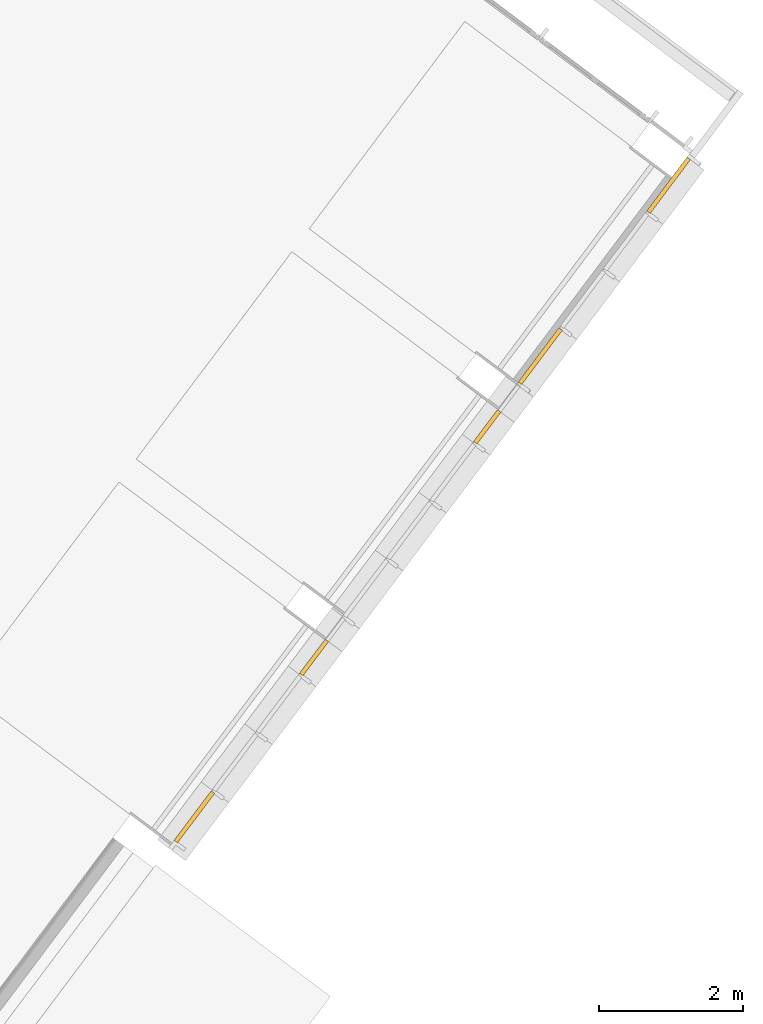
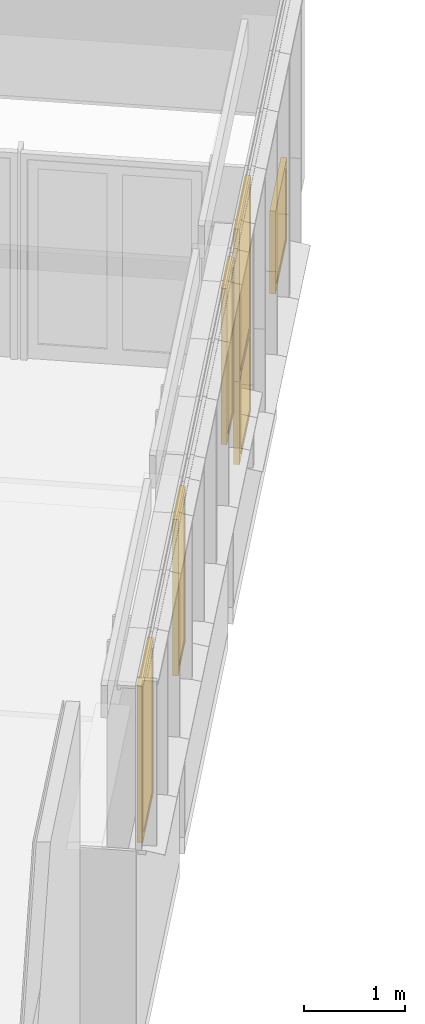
# One storey, part 11 of 15: 6 windows, 2 elements without a shape of their own.
"""IFC2X3 building model written with IfcOpenShell, lengths in metres."""

from ifc_helpers import new_model, entity, si_unit, converted_unit, derived_unit, direction, frame, origin, place, context, subcontext, project, spatial, faceted_brep, source, transform, mapped, material, material_list, type_object, type_shapes, element, aggregate, save


model = new_model("IFC2X3")

# Units and contexts
model_context = context("Model", 3, precision=1e-05, world=origin(), true_north=direction((6.123031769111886e-17, 1.0)))
body_context = subcontext(model_context, "Body", "Model", "MODEL_VIEW")
ifc_project = project(units=[si_unit("LENGTHUNIT", "METRE"), si_unit("AREAUNIT", "SQUARE_METRE"), si_unit("VOLUMEUNIT", "CUBIC_METRE"), converted_unit("PLANEANGLEUNIT", "DEGREE", entity("IfcRatioMeasure", 0.017453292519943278), si_unit("PLANEANGLEUNIT", "RADIAN"), dimensions=[0, 0, 0, 0, 0, 0, 0]), si_unit("MASSUNIT", "GRAM", prefix="KILO"), derived_unit("MASSDENSITYUNIT", [(si_unit("MASSUNIT", "GRAM", prefix="KILO"), 1), (si_unit("LENGTHUNIT", "METRE"), -3)]), derived_unit("IONCONCENTRATIONUNIT", [(si_unit("MASSUNIT", "GRAM", prefix="KILO"), 1), (si_unit("LENGTHUNIT", "METRE"), -3)]), derived_unit("MOMENTOFINERTIAUNIT", [(si_unit("LENGTHUNIT", "METRE"), 4)]), si_unit("TIMEUNIT", "SECOND"), si_unit("FREQUENCYUNIT", "HERTZ"), si_unit("THERMODYNAMICTEMPERATUREUNIT", "DEGREE_CELSIUS"), derived_unit("THERMALTRANSMITTANCEUNIT", [(si_unit("MASSUNIT", "GRAM", prefix="KILO"), 1), (si_unit("THERMODYNAMICTEMPERATUREUNIT", "KELVIN"), -1), (si_unit("TIMEUNIT", "SECOND"), -3)]), derived_unit("THERMALCONDUCTANCEUNIT", [(si_unit("MASSUNIT", "GRAM", prefix="KILO"), 1), (si_unit("THERMODYNAMICTEMPERATUREUNIT", "KELVIN"), -1), (si_unit("TIMEUNIT", "SECOND"), -3), (si_unit("LENGTHUNIT", "METRE"), 1)]), derived_unit("VOLUMETRICFLOWRATEUNIT", [(si_unit("LENGTHUNIT", "METRE"), 3), (si_unit("TIMEUNIT", "SECOND"), -1)]), derived_unit("MASSFLOWRATEUNIT", [(si_unit("MASSUNIT", "GRAM", prefix="KILO"), 1), (si_unit("TIMEUNIT", "SECOND"), -1)]), derived_unit("ROTATIONALFREQUENCYUNIT", [(si_unit("TIMEUNIT", "SECOND"), -1)]), si_unit("ELECTRICCURRENTUNIT", "AMPERE"), si_unit("ELECTRICVOLTAGEUNIT", "VOLT"), si_unit("POWERUNIT", "WATT"), si_unit("FORCEUNIT", "NEWTON", prefix="KILO"), si_unit("ILLUMINANCEUNIT", "LUX"), si_unit("LUMINOUSFLUXUNIT", "LUMEN"), si_unit("LUMINOUSINTENSITYUNIT", "CANDELA"), derived_unit("USERDEFINED", [(si_unit("MASSUNIT", "GRAM", prefix="KILO"), -1), (si_unit("LENGTHUNIT", "METRE"), -2), (si_unit("TIMEUNIT", "SECOND"), 3), (si_unit("LUMINOUSFLUXUNIT", "LUMEN"), 1)]), derived_unit("USERDEFINED", [(si_unit("MASSUNIT", "GRAM", prefix="KILO"), 1), (si_unit("TIMEUNIT", "SECOND"), -3), (si_unit("LENGTHUNIT", "METRE"), 3), (si_unit("ELECTRICCURRENTUNIT", "AMPERE"), -2)]), derived_unit("SOUNDPOWERUNIT", [(si_unit("MASSUNIT", "GRAM", prefix="KILO"), 1), (si_unit("TIMEUNIT", "SECOND"), -3), (si_unit("LENGTHUNIT", "METRE"), 2)]), derived_unit("SOUNDPRESSUREUNIT", [(si_unit("MASSUNIT", "GRAM", prefix="KILO"), 1), (si_unit("LENGTHUNIT", "METRE"), -1), (si_unit("TIMEUNIT", "SECOND"), -2)]), derived_unit("LINEARVELOCITYUNIT", [(si_unit("LENGTHUNIT", "METRE"), 1), (si_unit("TIMEUNIT", "SECOND"), -1)]), si_unit("PRESSUREUNIT", "PASCAL"), derived_unit("USERDEFINED", [(si_unit("MASSUNIT", "GRAM", prefix="KILO"), 1), (si_unit("LENGTHUNIT", "METRE"), -2), (si_unit("TIMEUNIT", "SECOND"), -2)]), derived_unit("LINEARFORCEUNIT", [(si_unit("MASSUNIT", "GRAM", prefix="KILO"), 1), (si_unit("TIMEUNIT", "SECOND"), -2)]), derived_unit("PLANARFORCEUNIT", [(si_unit("MASSUNIT", "GRAM", prefix="KILO"), 1), (si_unit("LENGTHUNIT", "METRE"), -1), (si_unit("TIMEUNIT", "SECOND"), -2)]), derived_unit("SPECIFICHEATCAPACITYUNIT", [(si_unit("THERMODYNAMICTEMPERATUREUNIT", "KELVIN"), -1), (si_unit("LENGTHUNIT", "METRE"), 2), (si_unit("TIMEUNIT", "SECOND"), -2)]), derived_unit("HEATINGVALUEUNIT", [(si_unit("LENGTHUNIT", "METRE"), 2), (si_unit("TIMEUNIT", "SECOND"), -2)]), derived_unit("VAPORPERMEABILITYUNIT", [(si_unit("LENGTHUNIT", "METRE"), -1), (si_unit("TIMEUNIT", "SECOND"), 1)]), derived_unit("DYNAMICVISCOSITYUNIT", [(si_unit("MASSUNIT", "GRAM", prefix="KILO"), 1), (si_unit("TIMEUNIT", "SECOND"), -1), (si_unit("LENGTHUNIT", "METRE"), -1)]), derived_unit("THERMALEXPANSIONCOEFFICIENTUNIT", [(si_unit("THERMODYNAMICTEMPERATUREUNIT", "KELVIN"), -1)]), derived_unit("MODULUSOFELASTICITYUNIT", [(si_unit("MASSUNIT", "GRAM", prefix="KILO"), 1), (si_unit("LENGTHUNIT", "METRE"), -1), (si_unit("TIMEUNIT", "SECOND"), -2)]), derived_unit("ISOTHERMALMOISTURECAPACITYUNIT", [(si_unit("LENGTHUNIT", "METRE"), 3), (si_unit("MASSUNIT", "GRAM", prefix="KILO"), -1)]), derived_unit("MOISTUREDIFFUSIVITYUNIT", [(si_unit("TIMEUNIT", "SECOND"), -1), (si_unit("LENGTHUNIT", "METRE"), 2)])], contexts=[model_context])

# Site, building, storey
site_placement = place(None, frame((0.0, 0.0, 235.0), z_axis=(0.0, 0.0, 1.0), x_axis=(-0.7996477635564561, 0.6004693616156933, 0.0)))
site = spatial("IfcSite", under=ifc_project, at=site_placement, Name="Default", CompositionType="ELEMENT")
building_placement = place(site_placement, origin())
building = spatial("IfcBuilding", under=site, at=building_placement, CompositionType="ELEMENT")
storey_placement = place(building_placement, frame((0.0, 0.0, -5.4499999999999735)))
storey = spatial("IfcBuildingStorey", under=building, at=storey_placement, Name="PS1- Gimnàs", CompositionType="ELEMENT", Elevation=-5.4499999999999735)

# Curtain wall, windows
curtain_wall_type = type_object("IfcCurtainWallType", Name="Muro cortina:MC- EXT- MCv1- lateral", PredefinedType="NOTDEFINED")
curtain_wall_1_placement = place(storey_placement, frame((0.0, 0.0, 5.4499999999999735)))
curtain_wall_1 = element("IfcCurtainWall", 1, at=curtain_wall_1_placement, inside=storey, type_object=curtain_wall_type, Name="Muro cortina:MC- EXT- MCv1- lateral", ObjectType="Muro cortina:MC- EXT- MCv1- lateral")
ifc_material_1 = material(Name="_Vidre")
ifc_material_2 = material(Name="_Alumini- T1- Perfil")
ifc_material_list = material_list([ifc_material_1, ifc_material_2])
window_style_1 = type_object("IfcWindowStyle", Name="MC- Alu- Conjunt vidre fix- 62x60 cm:MC- Alu- Conjunt vidre fix- 62x60 cm", ConstructionType="NOTDEFINED", OperationType="NOTDEFINED", ParameterTakesPrecedence=False, Sizeable=False, material=ifc_material_list)
shared_shape_1 = source(origin(), body_context, "Body", "Brep", [
    faceted_brep([(-0.22683093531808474, -0.007600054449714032, 0.048806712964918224), (0.2268309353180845, -0.007600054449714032, 0.048806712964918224), (0.2268309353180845, -0.03160022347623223, 0.048806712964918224), (-0.22683093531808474, -0.03160022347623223, 0.048806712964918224), (-0.22683093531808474, -0.007600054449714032, 1.8424999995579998), (0.2268309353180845, -0.007600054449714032, 1.8424999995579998), (0.2268309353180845, -0.03160022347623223, 1.8424999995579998), (-0.22683093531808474, -0.03160022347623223, 1.8424999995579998)], [[[0, 1, 2, 3]], [[4, 5, 1, 0]], [[5, 6, 2, 1]], [[6, 7, 3, 2]], [[7, 4, 0, 3]], [[4, 7, 6, 5]]]),
    faceted_brep([(-0.2756376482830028, -0.05999999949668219, 1.8914999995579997), (-0.2756376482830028, 0.0, 1.8914999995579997), (-0.2756376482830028, 0.0, 0.0), (-0.2756376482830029, -0.05999999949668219, 0.0), (-0.21283083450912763, 0.0, 1.8286931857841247), (-0.2128308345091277, 0.0, 0.06280681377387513), (0.2128308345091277, 0.0, 0.06280681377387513), (0.21283083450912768, 0.0, 1.8286931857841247), (0.27563764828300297, 0.0, 1.8914999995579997), (0.2756376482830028, 0.0, 0.0), (0.27563764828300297, -0.05999999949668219, 0.0), (0.2756376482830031, -0.05999999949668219, 1.8914999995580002), (0.21283368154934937, -0.05999999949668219, 1.8286960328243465), (0.21283368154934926, -0.05999999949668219, 0.06280396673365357), (-0.21283368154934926, -0.05999999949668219, 0.06280396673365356), (-0.21283368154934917, -0.05999999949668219, 1.8286960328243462), (-0.2128336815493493, -0.03160022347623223, 1.8286960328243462), (-0.21283368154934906, -0.03160022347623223, 0.06280396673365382), (0.21283368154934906, -0.03160022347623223, 0.06280396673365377), (0.21283368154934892, -0.03160022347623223, 1.828696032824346), (0.2268309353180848, -0.03160022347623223, 1.8426932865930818), (0.22683093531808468, -0.03160022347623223, 0.048806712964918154), (-0.22683093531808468, -0.03160022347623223, 0.04880671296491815), (-0.22683093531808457, -0.03160022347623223, 1.8426932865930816), (-0.2268309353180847, -0.007600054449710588, 1.8426932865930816), (-0.22683093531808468, -0.007600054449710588, 0.04880671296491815), (0.22683093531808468, -0.007600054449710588, 0.048806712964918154), (0.22683093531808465, -0.007600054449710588, 1.8426932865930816), (0.2128308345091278, -0.007600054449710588, 1.8286931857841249), (0.2128308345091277, -0.007600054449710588, 0.06280681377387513), (-0.21283083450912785, -0.007600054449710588, 0.06280681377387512), (-0.2128308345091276, -0.007600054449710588, 1.8286931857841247)], [[[0, 1, 2, 3]], [[4, 5, 6, 7], [8, 9, 2, 1]], [[3, 2, 9, 10]], [[0, 3, 10, 11], [12, 13, 14, 15]], [[16, 15, 14, 17]], [[17, 14, 13, 18]], [[16, 17, 18, 19], [20, 21, 22, 23]], [[24, 23, 22, 25]], [[25, 22, 21, 26]], [[24, 25, 26, 27], [28, 29, 30, 31]], [[4, 31, 30, 5]], [[5, 30, 29, 6]], [[10, 9, 8, 11]], [[18, 13, 12, 19]], [[26, 21, 20, 27]], [[6, 29, 28, 7]], [[11, 8, 1, 0]], [[19, 12, 15, 16]], [[27, 20, 23, 24]], [[7, 28, 31, 4]]], outer=[[True], [False, True], [True], [True, False], [True], [True], [False, True], [True], [True], [True, False], [True], [True], [True], [True], [True], [True], [True], [True], [True], [True]]),
])
type_shapes(window_style_1, [shared_shape_1])
window_1_placement = place(curtain_wall_1_placement, frame((3.0851476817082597, -33.67455411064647, -2.783999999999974), z_axis=(0.0, 0.0, 1.0), x_axis=(0.0, 1.0, 0.0)))
window_1 = element("IfcWindow", 2, at=window_1_placement, type_object=window_style_1, material=ifc_material_list, Name="MC- Alu- Conjunt vidre fix- 62x60 cm:MC- Alu- Conjunt vidre fix- 62x60 cm", ObjectType="MC- Alu- Conjunt vidre fix- 62x60 cm:MC- Alu- Conjunt vidre fix- 62x60 cm", OverallHeight=1.8914999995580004, OverallWidth=0.5512752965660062, context=body_context, shape_type="MappedRepresentation", body=[
    mapped(shared_shape_1, transform((0.0, 0.0, 0.0), scale=1.0)),
])
window_style_2 = type_object("IfcWindowStyle", Name="MC- Alu- Conjunt vidre fix- 62x60 cm:MC- Alu- Conjunt vidre fix- 62x60 cm", ConstructionType="NOTDEFINED", OperationType="NOTDEFINED", ParameterTakesPrecedence=False, Sizeable=False, material=ifc_material_list)
shared_shape_2 = source(origin(), body_context, "Body", "Brep", [
    faceted_brep([(-0.24683093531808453, -0.007600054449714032, 0.048806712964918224), (0.24683093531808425, -0.007600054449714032, 0.048806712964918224), (0.24683093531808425, -0.03160022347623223, 0.048806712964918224), (-0.24683093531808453, -0.03160022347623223, 0.048806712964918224), (-0.24683093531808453, -0.007600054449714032, 1.8424999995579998), (0.24683093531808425, -0.007600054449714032, 1.8424999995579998), (0.24683093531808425, -0.03160022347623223, 1.8424999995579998), (-0.24683093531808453, -0.03160022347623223, 1.8424999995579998)], [[[0, 1, 2, 3]], [[4, 5, 1, 0]], [[5, 6, 2, 1]], [[6, 7, 3, 2]], [[7, 4, 0, 3]], [[4, 7, 6, 5]]]),
    faceted_brep([(-0.2956376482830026, -0.05999999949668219, 1.8914999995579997), (-0.2956376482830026, 0.0, 1.8914999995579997), (-0.2956376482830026, 0.0, 0.0), (-0.29563764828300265, -0.05999999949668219, 0.0), (-0.23283083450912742, 0.0, 1.8286931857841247), (-0.23283083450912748, 0.0, 0.06280681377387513), (0.23283083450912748, 0.0, 0.06280681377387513), (0.23283083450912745, 0.0, 1.8286931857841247), (0.29563764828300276, 0.0, 1.8914999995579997), (0.2956376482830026, 0.0, 0.0), (0.29563764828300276, -0.05999999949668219, 0.0), (0.2956376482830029, -0.05999999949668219, 1.8914999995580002), (0.23283368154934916, -0.05999999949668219, 1.8286960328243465), (0.23283368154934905, -0.05999999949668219, 0.06280396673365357), (-0.23283368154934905, -0.05999999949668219, 0.06280396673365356), (-0.23283368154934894, -0.05999999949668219, 1.8286960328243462), (-0.23283368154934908, -0.03160022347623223, 1.8286960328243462), (-0.23283368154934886, -0.03160022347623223, 0.06280396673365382), (0.23283368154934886, -0.03160022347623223, 0.06280396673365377), (0.23283368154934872, -0.03160022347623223, 1.828696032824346), (0.24683093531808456, -0.03160022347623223, 1.8426932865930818), (0.24683093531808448, -0.03160022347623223, 0.048806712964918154), (-0.24683093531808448, -0.03160022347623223, 0.04880671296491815), (-0.24683093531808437, -0.03160022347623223, 1.8426932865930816), (-0.2468309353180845, -0.007600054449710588, 1.8426932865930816), (-0.24683093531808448, -0.007600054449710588, 0.04880671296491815), (0.24683093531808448, -0.007600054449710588, 0.048806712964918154), (0.24683093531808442, -0.007600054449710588, 1.8426932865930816), (0.2328308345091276, -0.007600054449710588, 1.8286931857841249), (0.23283083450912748, -0.007600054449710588, 0.06280681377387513), (-0.23283083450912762, -0.007600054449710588, 0.06280681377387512), (-0.2328308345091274, -0.007600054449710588, 1.8286931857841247)], [[[0, 1, 2, 3]], [[4, 5, 6, 7], [8, 9, 2, 1]], [[3, 2, 9, 10]], [[0, 3, 10, 11], [12, 13, 14, 15]], [[16, 15, 14, 17]], [[17, 14, 13, 18]], [[16, 17, 18, 19], [20, 21, 22, 23]], [[24, 23, 22, 25]], [[25, 22, 21, 26]], [[24, 25, 26, 27], [28, 29, 30, 31]], [[4, 31, 30, 5]], [[5, 30, 29, 6]], [[10, 9, 8, 11]], [[18, 13, 12, 19]], [[26, 21, 20, 27]], [[6, 29, 28, 7]], [[11, 8, 1, 0]], [[19, 12, 15, 16]], [[27, 20, 23, 24]], [[7, 28, 31, 4]]], outer=[[True], [False, True], [True], [True, False], [True], [True], [False, True], [True], [True], [True, False], [True], [True], [True], [True], [True], [True], [True], [True], [True], [True]]),
])
type_shapes(window_style_2, [shared_shape_2])
window_2_placement = place(curtain_wall_1_placement, frame((3.0851476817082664, -29.669452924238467, -2.783999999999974), z_axis=(0.0, 0.0, 1.0), x_axis=(0.0, 1.0, 0.0)))
window_2 = element("IfcWindow", 3, at=window_2_placement, type_object=window_style_2, material=ifc_material_list, Name="MC- Alu- Conjunt vidre fix- 62x60 cm:MC- Alu- Conjunt vidre fix- 62x60 cm", ObjectType="MC- Alu- Conjunt vidre fix- 62x60 cm:MC- Alu- Conjunt vidre fix- 62x60 cm", OverallHeight=1.8914999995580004, OverallWidth=0.5912752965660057, context=body_context, shape_type="MappedRepresentation", body=[
    mapped(shared_shape_2, transform((0.0, 0.0, 0.0), scale=1.0)),
])
window_style_3 = type_object("IfcWindowStyle", Name="MC- Alu- Conjunt vidre fix- 62x60 cm:MC- Alu- Conjunt vidre fix- 62x60 cm", ConstructionType="NOTDEFINED", OperationType="NOTDEFINED", ParameterTakesPrecedence=False, Sizeable=False, material=ifc_material_list)
shared_shape_3 = source(origin(), body_context, "Body", "Brep", [
    faceted_brep([(-0.3812059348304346, -0.007600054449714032, 0.048806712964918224), (0.3812059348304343, -0.007600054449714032, 0.048806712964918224), (0.3812059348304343, -0.03160022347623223, 0.048806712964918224), (-0.3812059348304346, -0.03160022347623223, 0.048806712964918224), (-0.3812059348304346, -0.007600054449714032, 1.8424999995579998), (0.3812059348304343, -0.007600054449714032, 1.8424999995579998), (0.3812059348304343, -0.03160022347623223, 1.8424999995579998), (-0.3812059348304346, -0.03160022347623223, 1.8424999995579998)], [[[0, 1, 2, 3]], [[4, 5, 1, 0]], [[5, 6, 2, 1]], [[6, 7, 3, 2]], [[7, 4, 0, 3]], [[4, 7, 6, 5]]]),
    faceted_brep([(-0.43001264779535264, -0.05999999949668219, 1.8914999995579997), (-0.43001264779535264, 0.0, 1.8914999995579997), (-0.43001264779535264, 0.0, 0.0), (-0.4300126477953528, -0.05999999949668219, 0.0), (-0.3672058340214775, 0.0, 1.8286931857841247), (-0.3672058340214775, 0.0, 0.06280681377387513), (0.36720583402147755, 0.0, 0.06280681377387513), (0.3672058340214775, 0.0, 1.8286931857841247), (0.4300126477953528, 0.0, 1.8914999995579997), (0.43001264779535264, 0.0, 0.0), (0.4300126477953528, -0.05999999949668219, 0.0), (0.4300126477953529, -0.05999999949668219, 1.8914999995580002), (0.36720868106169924, -0.05999999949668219, 1.8286960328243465), (0.3672086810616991, -0.05999999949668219, 0.06280396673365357), (-0.3672086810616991, -0.05999999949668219, 0.06280396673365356), (-0.3672086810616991, -0.05999999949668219, 1.8286960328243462), (-0.3672086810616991, -0.03160022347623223, 1.8286960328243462), (-0.3672086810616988, -0.03160022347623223, 0.06280396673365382), (0.3672086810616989, -0.03160022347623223, 0.06280396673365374), (0.3672086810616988, -0.03160022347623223, 1.828696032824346), (0.38120593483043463, -0.03160022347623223, 1.8426932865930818), (0.3812059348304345, -0.03160022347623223, 0.048806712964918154), (-0.3812059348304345, -0.03160022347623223, 0.04880671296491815), (-0.3812059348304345, -0.03160022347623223, 1.8426932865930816), (-0.3812059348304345, -0.007600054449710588, 1.8426932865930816), (-0.3812059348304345, -0.007600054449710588, 0.04880671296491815), (0.3812059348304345, -0.007600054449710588, 0.048806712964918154), (0.3812059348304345, -0.007600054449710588, 1.8426932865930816), (0.36720583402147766, -0.007600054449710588, 1.8286931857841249), (0.36720583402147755, -0.007600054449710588, 0.06280681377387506), (-0.36720583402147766, -0.007600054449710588, 0.06280681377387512), (-0.36720583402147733, -0.007600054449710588, 1.8286931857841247)], [[[0, 1, 2, 3]], [[4, 5, 6, 7], [8, 9, 2, 1]], [[3, 2, 9, 10]], [[0, 3, 10, 11], [12, 13, 14, 15]], [[16, 15, 14, 17]], [[17, 14, 13, 18]], [[16, 17, 18, 19], [20, 21, 22, 23]], [[24, 23, 22, 25]], [[25, 22, 21, 26]], [[24, 25, 26, 27], [28, 29, 30, 31]], [[4, 31, 30, 5]], [[5, 30, 29, 6]], [[10, 9, 8, 11]], [[18, 13, 12, 19]], [[26, 21, 20, 27]], [[6, 29, 28, 7]], [[11, 8, 1, 0]], [[19, 12, 15, 16]], [[27, 20, 23, 24]], [[7, 28, 31, 4]]], outer=[[True], [False, True], [True], [True, False], [True], [True], [False, True], [True], [True], [True, False], [True], [True], [True], [True], [True], [True], [True], [True], [True], [True]]),
])
type_shapes(window_style_3, [shared_shape_3])
window_3_placement = place(curtain_wall_1_placement, frame((3.0851476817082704, -26.901252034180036, -2.783999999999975), z_axis=(0.0, 0.0, 1.0), x_axis=(0.0, 1.0, 0.0)))
window_3 = element("IfcWindow", 4, at=window_3_placement, type_object=window_style_3, material=ifc_material_list, Name="MC- Alu- Conjunt vidre fix- 62x60 cm:MC- Alu- Conjunt vidre fix- 62x60 cm", ObjectType="MC- Alu- Conjunt vidre fix- 62x60 cm:MC- Alu- Conjunt vidre fix- 62x60 cm", OverallHeight=1.8914999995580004, OverallWidth=0.860025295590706, context=body_context, shape_type="MappedRepresentation", body=[
    mapped(shared_shape_3, transform((0.0, 0.0, 0.0), scale=1.0)),
])
aggregate(curtain_wall_1, [window_1, window_2, window_3])

curtain_wall_2_placement = place(storey_placement, frame((0.0, 0.0, 5.4499999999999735)))
curtain_wall_2 = element("IfcCurtainWall", 5, at=curtain_wall_2_placement, inside=storey, type_object=curtain_wall_type, Name="Muro cortina:MC- EXT- MCv1- lateral", ObjectType="Muro cortina:MC- EXT- MCv1- lateral")
window_style_4 = type_object("IfcWindowStyle", Name="MC- Alu- Conjunt vidre fix- 62x60 cm:MC- Alu- Conjunt vidre fix- 62x60 cm", ConstructionType="NOTDEFINED", OperationType="NOTDEFINED", ParameterTakesPrecedence=False, Sizeable=False, material=ifc_material_list)
shared_shape_4 = source(origin(), body_context, "Body", "Brep", [
    faceted_brep([(-0.41720266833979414, -0.007600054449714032, 0.048806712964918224), (0.41720266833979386, -0.007600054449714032, 0.048806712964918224), (0.41720266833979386, -0.03160022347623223, 0.048806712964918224), (-0.41720266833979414, -0.03160022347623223, 0.048806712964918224), (-0.41720266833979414, -0.007600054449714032, 0.9550000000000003), (0.41720266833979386, -0.007600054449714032, 0.9550000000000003), (0.41720266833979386, -0.03160022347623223, 0.9550000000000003), (-0.41720266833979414, -0.03160022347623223, 0.9550000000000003)], [[[0, 1, 2, 3]], [[4, 5, 1, 0]], [[5, 6, 2, 1]], [[6, 7, 3, 2]], [[7, 4, 0, 3]], [[4, 7, 6, 5]]]),
    faceted_brep([(-0.46600938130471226, -0.05999999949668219, 1.0040000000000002), (-0.46600938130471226, 0.0, 1.0040000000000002), (-0.46600938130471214, 0.0, 0.0), (-0.46600938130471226, -0.05999999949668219, 0.0), (-0.40320256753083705, 0.0, 0.9411931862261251), (-0.40320256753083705, 0.0, 0.06280681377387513), (0.4032025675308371, 0.0, 0.06280681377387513), (0.4032025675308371, 0.0, 0.9411931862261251), (0.46600938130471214, 0.0, 1.0040000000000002), (0.46600938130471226, 0.0, 0.0), (0.46600938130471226, -0.05999999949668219, 0.0), (0.46600938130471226, -0.05999999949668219, 1.0040000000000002), (0.40320541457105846, -0.05999999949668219, 0.9411960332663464), (0.4032054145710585, -0.05999999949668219, 0.0628039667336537), (-0.40320541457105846, -0.05999999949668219, 0.06280396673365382), (-0.4032054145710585, -0.05999999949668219, 0.9411960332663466), (-0.4032054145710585, -0.03160022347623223, 0.9411960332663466), (-0.40320541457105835, -0.03160022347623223, 0.06280396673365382), (0.40320541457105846, -0.03160022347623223, 0.06280396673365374), (0.4032054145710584, -0.03160022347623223, 0.9411960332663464), (0.4172026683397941, -0.03160022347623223, 0.9551932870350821), (0.4172026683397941, -0.03160022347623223, 0.048806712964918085), (-0.4172026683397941, -0.03160022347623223, 0.04880671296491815), (-0.4172026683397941, -0.03160022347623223, 0.9551932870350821), (-0.4172026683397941, -0.007600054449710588, 0.9551932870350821), (-0.4172026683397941, -0.007600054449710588, 0.04880671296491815), (0.4172026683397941, -0.007600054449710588, 0.048806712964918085), (0.4172026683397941, -0.007600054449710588, 0.9551932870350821), (0.40320256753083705, -0.007600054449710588, 0.941193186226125), (0.4032025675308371, -0.007600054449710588, 0.06280681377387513), (-0.40320256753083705, -0.007600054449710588, 0.06280681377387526), (-0.4032025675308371, -0.007600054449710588, 0.9411931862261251)], [[[0, 1, 2, 3]], [[4, 5, 6, 7], [8, 9, 2, 1]], [[3, 2, 9, 10]], [[0, 3, 10, 11], [12, 13, 14, 15]], [[16, 15, 14, 17]], [[17, 14, 13, 18]], [[16, 17, 18, 19], [20, 21, 22, 23]], [[24, 23, 22, 25]], [[25, 22, 21, 26]], [[24, 25, 26, 27], [28, 29, 30, 31]], [[4, 31, 30, 5]], [[5, 30, 29, 6]], [[10, 9, 8, 11]], [[18, 13, 12, 19]], [[26, 21, 20, 27]], [[6, 29, 28, 7]], [[11, 8, 1, 0]], [[19, 12, 15, 16]], [[27, 20, 23, 24]], [[7, 28, 31, 4]]], outer=[[True], [False, True], [True], [True, False], [True], [True], [False, True], [True], [True], [True, False], [True], [True], [True], [True], [True], [True], [True], [True], [True], [True]]),
])
type_shapes(window_style_4, [shared_shape_4])
window_4_placement = place(curtain_wall_2_placement, frame((3.085147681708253, -37.870238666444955, -3.7439999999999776), z_axis=(0.0, 0.0, 1.0), x_axis=(0.0, 1.0, 0.0)))
window_4 = element("IfcWindow", 6, at=window_4_placement, type_object=window_style_4, material=ifc_material_list, Name="MC- Alu- Conjunt vidre fix- 62x60 cm:MC- Alu- Conjunt vidre fix- 62x60 cm", ObjectType="MC- Alu- Conjunt vidre fix- 62x60 cm:MC- Alu- Conjunt vidre fix- 62x60 cm", OverallHeight=1.0040000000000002, OverallWidth=0.9320187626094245, context=body_context, shape_type="MappedRepresentation", body=[
    mapped(shared_shape_4, transform((0.0, 0.0, 0.0), scale=1.0)),
])
window_style_5 = type_object("IfcWindowStyle", Name="MC- Alu- Conjunt vidre fix- 62x60 cm:MC- Alu- Conjunt vidre fix- 62x60 cm", ConstructionType="NOTDEFINED", OperationType="NOTDEFINED", ParameterTakesPrecedence=False, Sizeable=False, material=ifc_material_list)
shared_shape_5 = source(origin(), body_context, "Body", "Brep", [
    faceted_brep([(-0.4230682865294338, -0.007600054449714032, 0.048806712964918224), (0.4230682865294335, -0.007600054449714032, 0.048806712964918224), (0.4230682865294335, -0.03160022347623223, 0.048806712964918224), (-0.4230682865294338, -0.03160022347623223, 0.048806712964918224), (-0.4230682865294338, -0.007600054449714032, 0.9550000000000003), (0.4230682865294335, -0.007600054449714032, 0.9550000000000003), (0.4230682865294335, -0.03160022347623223, 0.9550000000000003), (-0.4230682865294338, -0.03160022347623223, 0.9550000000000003)], [[[0, 1, 2, 3]], [[4, 5, 1, 0]], [[5, 6, 2, 1]], [[6, 7, 3, 2]], [[7, 4, 0, 3]], [[4, 7, 6, 5]]]),
    faceted_brep([(-0.47187499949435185, -0.05999999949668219, 1.0040000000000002), (-0.47187499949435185, 0.0, 1.0040000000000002), (-0.4718749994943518, 0.0, 0.0), (-0.47187499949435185, -0.05999999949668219, 0.0), (-0.4090681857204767, 0.0, 0.9411931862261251), (-0.4090681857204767, 0.0, 0.06280681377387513), (0.40906818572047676, 0.0, 0.06280681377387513), (0.40906818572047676, 0.0, 0.9411931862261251), (0.4718749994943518, 0.0, 1.0040000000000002), (0.47187499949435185, 0.0, 0.0), (0.47187499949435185, -0.05999999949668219, 0.0), (0.47187499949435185, -0.05999999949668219, 1.0040000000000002), (0.4090710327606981, -0.05999999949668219, 0.9411960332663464), (0.40907103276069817, -0.05999999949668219, 0.0628039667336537), (-0.4090710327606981, -0.05999999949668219, 0.06280396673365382), (-0.40907103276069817, -0.05999999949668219, 0.9411960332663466), (-0.40907103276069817, -0.03160022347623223, 0.9411960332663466), (-0.409071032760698, -0.03160022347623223, 0.06280396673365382), (0.4090710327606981, -0.03160022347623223, 0.06280396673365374), (0.40907103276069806, -0.03160022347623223, 0.9411960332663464), (0.42306828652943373, -0.03160022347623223, 0.9551932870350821), (0.42306828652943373, -0.03160022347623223, 0.048806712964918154), (-0.42306828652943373, -0.03160022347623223, 0.04880671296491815), (-0.42306828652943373, -0.03160022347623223, 0.9551932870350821), (-0.42306828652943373, -0.007600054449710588, 0.9551932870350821), (-0.42306828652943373, -0.007600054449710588, 0.04880671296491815), (0.42306828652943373, -0.007600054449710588, 0.048806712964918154), (0.42306828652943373, -0.007600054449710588, 0.9551932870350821), (0.4090681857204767, -0.007600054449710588, 0.941193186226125), (0.40906818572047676, -0.007600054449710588, 0.0628068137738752), (-0.4090681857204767, -0.007600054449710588, 0.06280681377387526), (-0.40906818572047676, -0.007600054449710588, 0.941193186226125)], [[[0, 1, 2, 3]], [[4, 5, 6, 7], [8, 9, 2, 1]], [[3, 2, 9, 10]], [[0, 3, 10, 11], [12, 13, 14, 15]], [[16, 15, 14, 17]], [[17, 14, 13, 18]], [[16, 17, 18, 19], [20, 21, 22, 23]], [[24, 23, 22, 25]], [[25, 22, 21, 26]], [[24, 25, 26, 27], [28, 29, 30, 31]], [[4, 31, 30, 5]], [[5, 30, 29, 6]], [[10, 9, 8, 11]], [[18, 13, 12, 19]], [[26, 21, 20, 27]], [[6, 29, 28, 7]], [[11, 8, 1, 0]], [[19, 12, 15, 16]], [[27, 20, 23, 24]], [[7, 28, 31, 4]]], outer=[[True], [False, True], [True], [True, False], [True], [True], [False, True], [True], [True], [True, False], [True], [True], [True], [True], [True], [True], [True], [True], [True], [True]]),
])
type_shapes(window_style_5, [shared_shape_5])
window_5_placement = place(curtain_wall_2_placement, frame((3.085147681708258, -34.90331675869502, -3.7439999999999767), z_axis=(0.0, 0.0, 1.0), x_axis=(0.0, 1.0, 0.0)))
window_5 = element("IfcWindow", 7, at=window_5_placement, type_object=window_style_5, material=ifc_material_list, Name="MC- Alu- Conjunt vidre fix- 62x60 cm:MC- Alu- Conjunt vidre fix- 62x60 cm", ObjectType="MC- Alu- Conjunt vidre fix- 62x60 cm:MC- Alu- Conjunt vidre fix- 62x60 cm", OverallHeight=1.0040000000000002, OverallWidth=0.9437499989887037, context=body_context, shape_type="MappedRepresentation", body=[
    mapped(shared_shape_5, transform((0.0, 0.0, 0.0), scale=1.0)),
])
window_style_6 = type_object("IfcWindowStyle", Name="MC- Alu- Conjunt vidre fix- 62x60 cm:MC- Alu- Conjunt vidre fix- 62x60 cm", ConstructionType="NOTDEFINED", OperationType="NOTDEFINED", ParameterTakesPrecedence=False, Sizeable=False, material=ifc_material_list)
shared_shape_6 = source(origin(), body_context, "Body", "Brep", [
    faceted_brep([(-0.4230682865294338, -0.007600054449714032, 0.048806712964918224), (0.4230682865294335, -0.007600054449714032, 0.048806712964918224), (0.4230682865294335, -0.03160022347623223, 0.048806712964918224), (-0.4230682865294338, -0.03160022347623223, 0.048806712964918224), (-0.4230682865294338, -0.007600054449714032, 1.798499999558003), (0.4230682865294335, -0.007600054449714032, 1.798499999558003), (0.4230682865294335, -0.03160022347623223, 1.798499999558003), (-0.4230682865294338, -0.03160022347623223, 1.798499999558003)], [[[0, 1, 2, 3]], [[4, 5, 1, 0]], [[5, 6, 2, 1]], [[6, 7, 3, 2]], [[7, 4, 0, 3]], [[4, 7, 6, 5]]]),
    faceted_brep([(-0.47187499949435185, -0.05999999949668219, 1.847499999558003), (-0.47187499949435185, 0.0, 1.847499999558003), (-0.47187499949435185, 0.0, 0.0), (-0.47187499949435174, -0.05999999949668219, 0.0), (-0.4090681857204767, 0.0, 1.784693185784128), (-0.4090681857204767, 0.0, 0.06280681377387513), (0.40906818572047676, 0.0, 0.06280681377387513), (0.4090681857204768, 0.0, 1.784693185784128), (0.47187499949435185, 0.0, 1.847499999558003), (0.47187499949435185, 0.0, 0.0), (0.47187499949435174, -0.05999999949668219, 0.0), (0.47187499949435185, -0.05999999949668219, 1.847499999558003), (0.4090710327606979, -0.05999999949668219, 1.7846960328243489), (0.40907103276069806, -0.05999999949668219, 0.0628039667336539), (-0.40907103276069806, -0.05999999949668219, 0.06280396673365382), (-0.40907103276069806, -0.05999999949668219, 1.7846960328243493), (-0.40907103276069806, -0.03160022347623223, 1.7846960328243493), (-0.409071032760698, -0.03160022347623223, 0.06280396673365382), (0.4090710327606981, -0.03160022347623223, 0.06280396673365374), (0.40907103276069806, -0.03160022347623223, 1.7846960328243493), (0.42306828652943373, -0.03160022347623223, 1.798693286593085), (0.42306828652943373, -0.03160022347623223, 0.048806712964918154), (-0.42306828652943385, -0.03160022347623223, 0.04880671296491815), (-0.42306828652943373, -0.03160022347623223, 1.798693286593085), (-0.42306828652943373, -0.007600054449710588, 1.798693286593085), (-0.42306828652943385, -0.007600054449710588, 0.04880671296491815), (0.42306828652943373, -0.007600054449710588, 0.048806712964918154), (0.42306828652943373, -0.007600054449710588, 1.798693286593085), (0.40906818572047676, -0.007600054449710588, 1.784693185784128), (0.40906818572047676, -0.007600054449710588, 0.0628068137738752), (-0.4090681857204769, -0.007600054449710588, 0.06280681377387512), (-0.4090681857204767, -0.007600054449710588, 1.784693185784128)], [[[0, 1, 2, 3]], [[4, 5, 6, 7], [8, 9, 2, 1]], [[3, 2, 9, 10]], [[0, 3, 10, 11], [12, 13, 14, 15]], [[16, 15, 14, 17]], [[17, 14, 13, 18]], [[16, 17, 18, 19], [20, 21, 22, 23]], [[24, 23, 22, 25]], [[25, 22, 21, 26]], [[24, 25, 26, 27], [28, 29, 30, 31]], [[4, 31, 30, 5]], [[5, 30, 29, 6]], [[10, 9, 8, 11]], [[18, 13, 12, 19]], [[26, 21, 20, 27]], [[6, 29, 28, 7]], [[11, 8, 1, 0]], [[19, 12, 15, 16]], [[27, 20, 23, 24]], [[7, 28, 31, 4]]], outer=[[True], [False, True], [True], [True, False], [True], [True], [False, True], [True], [True], [True, False], [True], [True], [True], [True], [True], [True], [True], [True], [True], [True]]),
])
type_shapes(window_style_6, [shared_shape_6])
window_6_placement = place(curtain_wall_2_placement, frame((3.085147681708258, -34.90331675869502, -2.7399999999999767), z_axis=(0.0, 0.0, 1.0), x_axis=(0.0, 1.0, 0.0)))
window_6 = element("IfcWindow", 8, at=window_6_placement, type_object=window_style_6, material=ifc_material_list, Name="MC- Alu- Conjunt vidre fix- 62x60 cm:MC- Alu- Conjunt vidre fix- 62x60 cm", ObjectType="MC- Alu- Conjunt vidre fix- 62x60 cm:MC- Alu- Conjunt vidre fix- 62x60 cm", OverallHeight=1.847499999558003, OverallWidth=0.9437499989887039, context=body_context, shape_type="MappedRepresentation", body=[
    mapped(shared_shape_6, transform((0.0, 0.0, 0.0), scale=1.0)),
])
aggregate(curtain_wall_2, [window_4, window_5, window_6])

save(model, "model.ifc")
